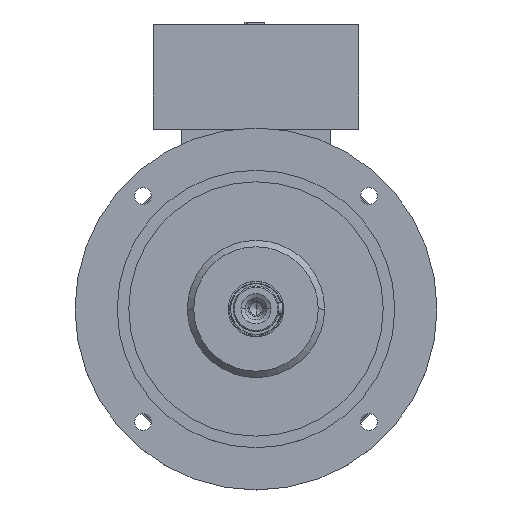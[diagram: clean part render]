
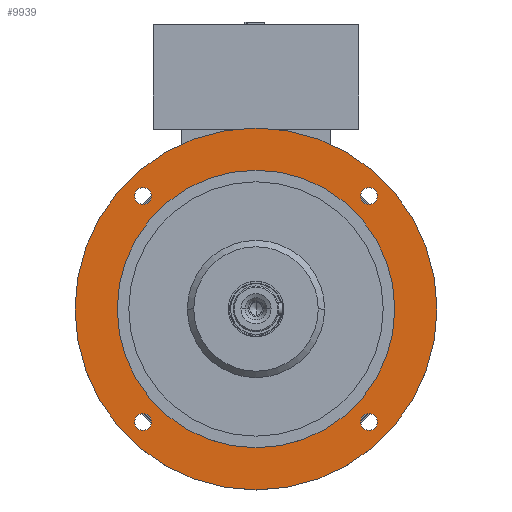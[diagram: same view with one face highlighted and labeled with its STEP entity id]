
A CAD part, top view. The second image highlights one B-rep face of the part: STEP entity #9939.
In plain terms, the highlighted planar face has unit normal (0, 0, 1).
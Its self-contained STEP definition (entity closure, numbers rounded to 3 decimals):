
#2 = FACE_BOUND ( 'NONE', #18588, .T. ) ;
#322 = AXIS2_PLACEMENT_3D ( 'NONE', #12209, #8767, #7248 ) ;
#328 = VERTEX_POINT ( 'NONE', #4986 ) ;
#350 = ORIENTED_EDGE ( 'NONE', *, *, #448, .T. ) ;
#421 = AXIS2_PLACEMENT_3D ( 'NONE', #12795, #1289, #17554 ) ;
#448 = EDGE_CURVE ( 'NONE', #3827, #16650, #18758, .T. ) ;
#583 = CIRCLE ( 'NONE', #421, 7. ) ;
#812 = AXIS2_PLACEMENT_3D ( 'NONE', #18788, #18654, #12184 ) ;
#849 = PLANE ( 'NONE',  #322 ) ;
#867 = DIRECTION ( 'NONE',  ( 1., 0., 0. ) ) ;
#915 = DIRECTION ( 'NONE',  ( 0., 0., -1. ) ) ;
#1286 = EDGE_CURVE ( 'NONE', #7154, #8073, #17755, .T. ) ;
#1289 = DIRECTION ( 'NONE',  ( 0., 0., -1. ) ) ;
#1457 = DIRECTION ( 'NONE',  ( 0., 0., -1. ) ) ;
#1563 = VERTEX_POINT ( 'NONE', #12045 ) ;
#2041 = CARTESIAN_POINT ( 'NONE',  ( 86.692, 93.692, 178. ) ) ;
#2121 = AXIS2_PLACEMENT_3D ( 'NONE', #2477, #915, #16971 ) ;
#2288 = ORIENTED_EDGE ( 'NONE', *, *, #5644, .T. ) ;
#2477 = CARTESIAN_POINT ( 'NONE',  ( 0., 0., 178. ) ) ;
#2485 = EDGE_CURVE ( 'NONE', #9861, #4590, #6032, .T. ) ;
#2570 = CARTESIAN_POINT ( 'NONE',  ( -93.692, 93.692, 178. ) ) ;
#2633 = ORIENTED_EDGE ( 'NONE', *, *, #2485, .T. ) ;
#2668 = CIRCLE ( 'NONE', #4606, 7. ) ;
#2735 = DIRECTION ( 'NONE',  ( -1., 0., 0. ) ) ;
#2964 = VERTEX_POINT ( 'NONE', #13413 ) ;
#3035 = AXIS2_PLACEMENT_3D ( 'NONE', #9596, #13025, #19282 ) ;
#3417 = CARTESIAN_POINT ( 'NONE',  ( 93.692, 93.692, 178. ) ) ;
#3528 = CIRCLE ( 'NONE', #3035, 7. ) ;
#3559 = FACE_BOUND ( 'NONE', #15272, .T. ) ;
#3827 = VERTEX_POINT ( 'NONE', #9931 ) ;
#4303 = DIRECTION ( 'NONE',  ( 0., 0., -1. ) ) ;
#4590 = VERTEX_POINT ( 'NONE', #12333 ) ;
#4606 = AXIS2_PLACEMENT_3D ( 'NONE', #20341, #4303, #15440 ) ;
#4687 = CARTESIAN_POINT ( 'NONE',  ( -93.692, -93.692, 178. ) ) ;
#4727 = EDGE_CURVE ( 'NONE', #4590, #9861, #583, .T. ) ;
#4986 = CARTESIAN_POINT ( 'NONE',  ( -86.692, -93.692, 178. ) ) ;
#5437 = EDGE_LOOP ( 'NONE', ( #2288, #7448 ) ) ;
#5644 = EDGE_CURVE ( 'NONE', #17154, #16802, #13241, .T. ) ;
#5808 = CARTESIAN_POINT ( 'NONE',  ( 100.692, -93.692, 178. ) ) ;
#6032 = CIRCLE ( 'NONE', #812, 7. ) ;
#6334 = EDGE_CURVE ( 'NONE', #1563, #2964, #11946, .T. ) ;
#6370 = FACE_BOUND ( 'NONE', #11537, .T. ) ;
#6922 = DIRECTION ( 'NONE',  ( 0., 0., -1. ) ) ;
#7154 = VERTEX_POINT ( 'NONE', #20457 ) ;
#7248 = DIRECTION ( 'NONE',  ( 1., 0., 0. ) ) ;
#7281 = CARTESIAN_POINT ( 'NONE',  ( 0., 0., 178. ) ) ;
#7354 = ORIENTED_EDGE ( 'NONE', *, *, #17112, .T. ) ;
#7448 = ORIENTED_EDGE ( 'NONE', *, *, #8020, .T. ) ;
#7803 = EDGE_CURVE ( 'NONE', #10580, #328, #2668, .T. ) ;
#7817 = DIRECTION ( 'NONE',  ( 0., 0., -1. ) ) ;
#7895 = EDGE_CURVE ( 'NONE', #2964, #1563, #19661, .T. ) ;
#8020 = EDGE_CURVE ( 'NONE', #16802, #17154, #17663, .T. ) ;
#8036 = CARTESIAN_POINT ( 'NONE',  ( -86.692, 93.692, 178. ) ) ;
#8073 = VERTEX_POINT ( 'NONE', #8036 ) ;
#8099 = ORIENTED_EDGE ( 'NONE', *, *, #7803, .T. ) ;
#8431 = AXIS2_PLACEMENT_3D ( 'NONE', #2570, #18964, #867 ) ;
#8578 = AXIS2_PLACEMENT_3D ( 'NONE', #3417, #14976, #18051 ) ;
#8605 = FACE_BOUND ( 'NONE', #5437, .T. ) ;
#8658 = AXIS2_PLACEMENT_3D ( 'NONE', #16652, #6922, #13665 ) ;
#8767 = DIRECTION ( 'NONE',  ( 0., 0., 1. ) ) ;
#8869 = FACE_BOUND ( 'NONE', #15623, .T. ) ;
#9596 = CARTESIAN_POINT ( 'NONE',  ( -93.692, 93.692, 178. ) ) ;
#9861 = VERTEX_POINT ( 'NONE', #5808 ) ;
#9931 = CARTESIAN_POINT ( 'NONE',  ( 115., 0., 178. ) ) ;
#9939 = ADVANCED_FACE ( 'NONE', ( #11692, #8869, #2, #8605, #6370, #3559 ), #849, .T. ) ;
#10067 = ORIENTED_EDGE ( 'NONE', *, *, #11233, .T. ) ;
#10580 = VERTEX_POINT ( 'NONE', #19924 ) ;
#10831 = DIRECTION ( 'NONE',  ( 0., 0., -1. ) ) ;
#11047 = CARTESIAN_POINT ( 'NONE',  ( 93.692, 93.692, 178. ) ) ;
#11135 = AXIS2_PLACEMENT_3D ( 'NONE', #7281, #10831, #2735 ) ;
#11212 = DIRECTION ( 'NONE',  ( 0., 0., -1. ) ) ;
#11233 = EDGE_CURVE ( 'NONE', #328, #10580, #15447, .T. ) ;
#11537 = EDGE_LOOP ( 'NONE', ( #7354, #19261 ) ) ;
#11611 = CARTESIAN_POINT ( 'NONE',  ( -115., 0., 178. ) ) ;
#11692 = FACE_OUTER_BOUND ( 'NONE', #20570, .T. ) ;
#11946 = CIRCLE ( 'NONE', #2121, 150. ) ;
#12045 = CARTESIAN_POINT ( 'NONE',  ( -150., 0., 178. ) ) ;
#12173 = ORIENTED_EDGE ( 'NONE', *, *, #18393, .T. ) ;
#12184 = DIRECTION ( 'NONE',  ( 1., 0., 0. ) ) ;
#12209 = CARTESIAN_POINT ( 'NONE',  ( 0., 150., 178. ) ) ;
#12333 = CARTESIAN_POINT ( 'NONE',  ( 86.692, -93.692, 178. ) ) ;
#12365 = AXIS2_PLACEMENT_3D ( 'NONE', #14429, #7817, #14368 ) ;
#12795 = CARTESIAN_POINT ( 'NONE',  ( 93.692, -93.692, 178. ) ) ;
#13025 = DIRECTION ( 'NONE',  ( 0., 0., -1. ) ) ;
#13241 = CIRCLE ( 'NONE', #8578, 7. ) ;
#13413 = CARTESIAN_POINT ( 'NONE',  ( 150., 0., 178. ) ) ;
#13538 = AXIS2_PLACEMENT_3D ( 'NONE', #4687, #11212, #19176 ) ;
#13665 = DIRECTION ( 'NONE',  ( -1., 0., 0. ) ) ;
#14368 = DIRECTION ( 'NONE',  ( -1., 0., 0. ) ) ;
#14399 = AXIS2_PLACEMENT_3D ( 'NONE', #11047, #1457, #18991 ) ;
#14429 = CARTESIAN_POINT ( 'NONE',  ( 0., 0., 178. ) ) ;
#14470 = ORIENTED_EDGE ( 'NONE', *, *, #4727, .T. ) ;
#14976 = DIRECTION ( 'NONE',  ( 0., 0., -1. ) ) ;
#15272 = EDGE_LOOP ( 'NONE', ( #10067, #8099 ) ) ;
#15401 = CIRCLE ( 'NONE', #8658, 115. ) ;
#15440 = DIRECTION ( 'NONE',  ( 1., 0., 0. ) ) ;
#15447 = CIRCLE ( 'NONE', #13538, 7. ) ;
#15623 = EDGE_LOOP ( 'NONE', ( #12173, #350 ) ) ;
#16650 = VERTEX_POINT ( 'NONE', #11611 ) ;
#16652 = CARTESIAN_POINT ( 'NONE',  ( 0., 0., 178. ) ) ;
#16802 = VERTEX_POINT ( 'NONE', #2041 ) ;
#16971 = DIRECTION ( 'NONE',  ( -1., 0., 0. ) ) ;
#17112 = EDGE_CURVE ( 'NONE', #8073, #7154, #3528, .T. ) ;
#17154 = VERTEX_POINT ( 'NONE', #17871 ) ;
#17554 = DIRECTION ( 'NONE',  ( 1., 0., 0. ) ) ;
#17663 = CIRCLE ( 'NONE', #14399, 7. ) ;
#17755 = CIRCLE ( 'NONE', #8431, 7. ) ;
#17871 = CARTESIAN_POINT ( 'NONE',  ( 100.692, 93.692, 178. ) ) ;
#18051 = DIRECTION ( 'NONE',  ( 1., 0., 0. ) ) ;
#18393 = EDGE_CURVE ( 'NONE', #16650, #3827, #15401, .T. ) ;
#18588 = EDGE_LOOP ( 'NONE', ( #2633, #14470 ) ) ;
#18654 = DIRECTION ( 'NONE',  ( 0., 0., -1. ) ) ;
#18758 = CIRCLE ( 'NONE', #12365, 115. ) ;
#18788 = CARTESIAN_POINT ( 'NONE',  ( 93.692, -93.692, 178. ) ) ;
#18964 = DIRECTION ( 'NONE',  ( 0., 0., -1. ) ) ;
#18991 = DIRECTION ( 'NONE',  ( 1., 0., 0. ) ) ;
#19176 = DIRECTION ( 'NONE',  ( 1., 0., 0. ) ) ;
#19261 = ORIENTED_EDGE ( 'NONE', *, *, #1286, .T. ) ;
#19282 = DIRECTION ( 'NONE',  ( 1., 0., 0. ) ) ;
#19661 = CIRCLE ( 'NONE', #11135, 150. ) ;
#19924 = CARTESIAN_POINT ( 'NONE',  ( -100.692, -93.692, 178. ) ) ;
#20008 = ORIENTED_EDGE ( 'NONE', *, *, #6334, .F. ) ;
#20341 = CARTESIAN_POINT ( 'NONE',  ( -93.692, -93.692, 178. ) ) ;
#20457 = CARTESIAN_POINT ( 'NONE',  ( -100.692, 93.692, 178. ) ) ;
#20570 = EDGE_LOOP ( 'NONE', ( #20008, #20925 ) ) ;
#20925 = ORIENTED_EDGE ( 'NONE', *, *, #7895, .F. ) ;
